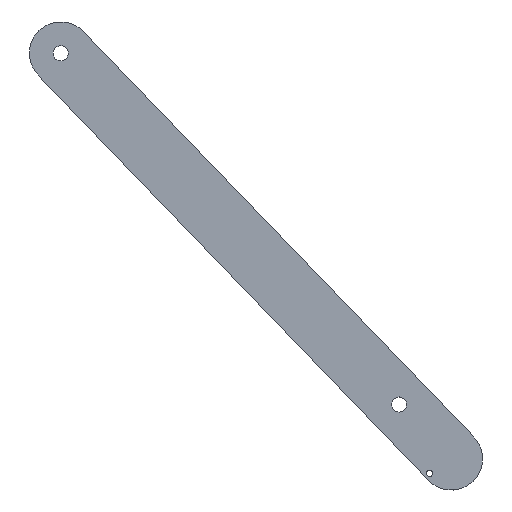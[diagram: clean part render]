
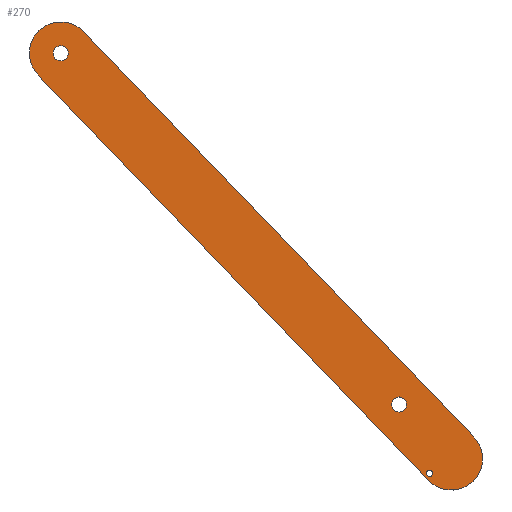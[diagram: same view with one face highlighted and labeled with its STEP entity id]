
A CAD part, top view. The second image highlights one B-rep face of the part: STEP entity #270.
In plain terms, the highlighted planar face has unit normal (0, 0, 1).
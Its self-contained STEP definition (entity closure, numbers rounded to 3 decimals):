
#57=CARTESIAN_POINT('',(-11.425,-395.,1.5));
#58=DIRECTION('',(0.,0.,-1.));
#59=DIRECTION('',(1.,0.,0.));
#60=AXIS2_PLACEMENT_3D('',#57,#58,#59);
#62=CARTESIAN_POINT('',(-11.425,-395.,1.5));
#63=DIRECTION('',(0.,0.,-1.));
#64=DIRECTION('',(-1.,0.,0.));
#65=AXIS2_PLACEMENT_3D('',#62,#63,#64);
#67=CARTESIAN_POINT('',(123.482,-535.045,1.5));
#68=DIRECTION('',(0.,0.,-1.));
#69=DIRECTION('',(1.,0.,0.));
#70=AXIS2_PLACEMENT_3D('',#67,#68,#69);
#72=CARTESIAN_POINT('',(123.482,-535.045,1.5));
#73=DIRECTION('',(0.,0.,-1.));
#74=DIRECTION('',(-1.,0.,0.));
#75=AXIS2_PLACEMENT_3D('',#72,#73,#74);
#77=CARTESIAN_POINT('',(135.651,-562.466,1.5));
#78=DIRECTION('',(0.,0.,-1.));
#79=DIRECTION('',(1.,0.,0.));
#80=AXIS2_PLACEMENT_3D('',#77,#78,#79);
#82=CARTESIAN_POINT('',(135.651,-562.466,1.5));
#83=DIRECTION('',(0.,0.,-1.));
#84=DIRECTION('',(-1.,0.,0.));
#85=AXIS2_PLACEMENT_3D('',#82,#83,#84);
#87=DIRECTION('',(0.694,-0.72,0.));
#88=VECTOR('',#87,224.454);
#89=CARTESIAN_POINT('',(-20.427,-403.672,1.5));
#90=LINE('',#89,#88);
#91=CARTESIAN_POINT('',(-11.425,-395.,1.5));
#92=DIRECTION('',(0.,0.,1.));
#93=DIRECTION('',(0.72,0.694,0.));
#94=AXIS2_PLACEMENT_3D('',#91,#92,#93);
#96=DIRECTION('',(-0.694,0.72,0.));
#97=VECTOR('',#96,224.454);
#98=CARTESIAN_POINT('',(153.298,-547.978,1.5));
#99=LINE('',#98,#97);
#100=CARTESIAN_POINT('',(144.296,-556.65,1.5));
#101=DIRECTION('',(0.,0.,1.));
#102=DIRECTION('',(-0.72,-0.694,0.));
#103=AXIS2_PLACEMENT_3D('',#100,#101,#102);
#157=CARTESIAN_POINT('',(-8.425,-395.,1.5));
#158=CARTESIAN_POINT('',(-14.425,-395.,1.5));
#159=VERTEX_POINT('',#157);
#160=VERTEX_POINT('',#158);
#161=CARTESIAN_POINT('',(126.482,-535.045,1.5));
#162=CARTESIAN_POINT('',(120.482,-535.045,1.5));
#163=VERTEX_POINT('',#161);
#164=VERTEX_POINT('',#162);
#165=CARTESIAN_POINT('',(136.901,-562.466,1.5));
#166=CARTESIAN_POINT('',(134.401,-562.466,1.5));
#167=VERTEX_POINT('',#165);
#168=VERTEX_POINT('',#166);
#169=CARTESIAN_POINT('',(-20.427,-403.672,1.5));
#170=CARTESIAN_POINT('',(135.293,-565.323,1.5));
#171=VERTEX_POINT('',#169);
#172=VERTEX_POINT('',#170);
#173=CARTESIAN_POINT('',(153.298,-547.978,1.5));
#174=VERTEX_POINT('',#173);
#175=CARTESIAN_POINT('',(-2.423,-386.328,1.5));
#176=VERTEX_POINT('',#175);
#239=CARTESIAN_POINT('',(0.,0.,1.5));
#240=DIRECTION('',(0.,0.,1.));
#241=DIRECTION('',(1.,0.,0.));
#242=AXIS2_PLACEMENT_3D('',#239,#240,#241);
#243=PLANE('',#242);
#245=ORIENTED_EDGE('',*,*,#244,.F.);
#247=ORIENTED_EDGE('',*,*,#246,.F.);
#249=ORIENTED_EDGE('',*,*,#248,.F.);
#251=ORIENTED_EDGE('',*,*,#250,.F.);
#252=EDGE_LOOP('',(#245,#247,#249,#251));
#253=FACE_OUTER_BOUND('',#252,.F.);
#255=ORIENTED_EDGE('',*,*,#254,.F.);
#257=ORIENTED_EDGE('',*,*,#256,.F.);
#258=EDGE_LOOP('',(#255,#257));
#259=FACE_BOUND('',#258,.F.);
#261=ORIENTED_EDGE('',*,*,#260,.F.);
#263=ORIENTED_EDGE('',*,*,#262,.F.);
#264=EDGE_LOOP('',(#261,#263));
#265=FACE_BOUND('',#264,.F.);
#266=ORIENTED_EDGE('',*,*,#219,.F.);
#267=ORIENTED_EDGE('',*,*,#233,.F.);
#268=EDGE_LOOP('',(#266,#267));
#269=FACE_BOUND('',#268,.F.);
#270=ADVANCED_FACE('',(#253,#259,#265,#269),#243,.T.);
#61=CIRCLE('',#60,3.);
#66=CIRCLE('',#65,3.);
#71=CIRCLE('',#70,3.);
#76=CIRCLE('',#75,3.);
#81=CIRCLE('',#80,1.25);
#86=CIRCLE('',#85,1.25);
#95=CIRCLE('',#94,12.5);
#104=CIRCLE('',#103,12.5);
#219=EDGE_CURVE('',#159,#160,#61,.T.);
#233=EDGE_CURVE('',#160,#159,#66,.T.);
#244=EDGE_CURVE('',#171,#172,#90,.T.);
#246=EDGE_CURVE('',#176,#171,#95,.T.);
#248=EDGE_CURVE('',#174,#176,#99,.T.);
#250=EDGE_CURVE('',#172,#174,#104,.T.);
#254=EDGE_CURVE('',#163,#164,#71,.T.);
#256=EDGE_CURVE('',#164,#163,#76,.T.);
#260=EDGE_CURVE('',#167,#168,#81,.T.);
#262=EDGE_CURVE('',#168,#167,#86,.T.);
